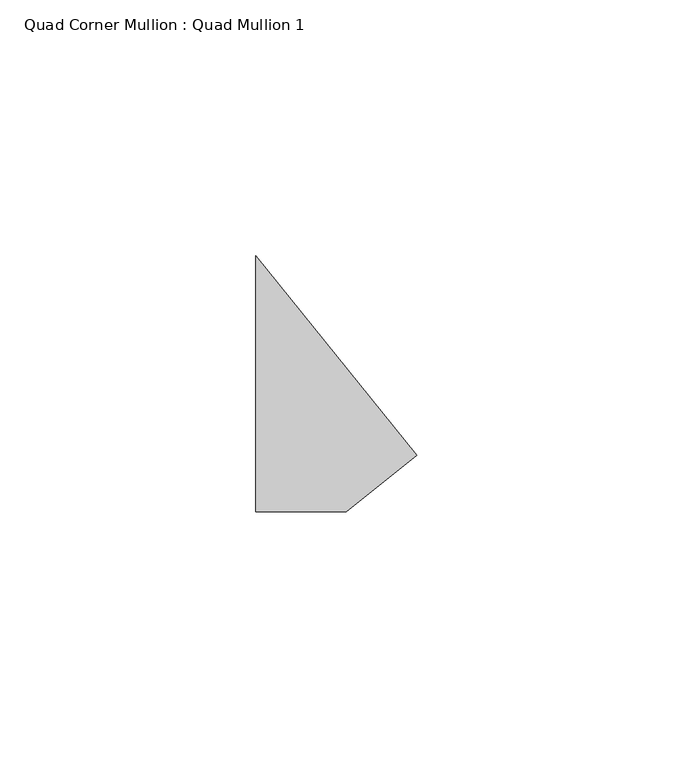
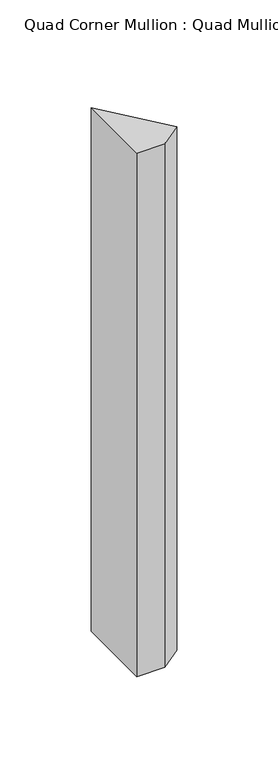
"""IFC4 building model written with IfcOpenShell, lengths in millimetres: member geometry, Quad Corner Mullion : Quad Mullion 1."""

from ifc_helpers import new_model, si_unit, frame, origin, place, context, project, spatial, polyline, outline, extrude, source, transform, mapped, element, save


def quad_corner_mullion_quad_mullion_1_cc575772(model_context):
    return source(origin(), model_context, "Body", "SweptSolid", [
        extrude(outline(polyline([(22.5756121, -13.9047283), (8.8317456, -25.0), (-8.8317456, -25.0), (-8.8317456, 25.0), (22.5756121, -13.9047283)])), frame((0.0, 0.0, -350.0), z_axis=(0.0, 0.0, 1.0), x_axis=(1.0, 0.0, 0.0)), (0.0, 0.0, 1.0), 350.0),
    ])


if __name__ == "__main__":
    model = new_model("IFC4")
    model_context = context("Model", 3, world=origin())
    ifc_project = project(units=[si_unit("LENGTHUNIT", "METRE", prefix="MILLI")], contexts=[model_context])
    site = spatial("IfcSite", under=ifc_project)
    building = spatial("IfcBuilding", under=site)
    placement = place(None, origin())
    quad_corner_mullion_quad_mullion_1_shape = quad_corner_mullion_quad_mullion_1_cc575772(model_context)
    element("IfcMember", 1, ObjectType="Quad Corner Mullion : Quad Mullion 1", at=placement, inside=building, context=model_context, shape_type="MappedRepresentation", body=[
        mapped(quad_corner_mullion_quad_mullion_1_shape, transform((0.0, 0.0, 0.0), x_axis=(1.0, 0.0, 0.0), y_axis=(0.0, 1.0, 0.0), z_axis=(0.0, 0.0, 1.0))),
    ])
    save(model, "model.ifc")
